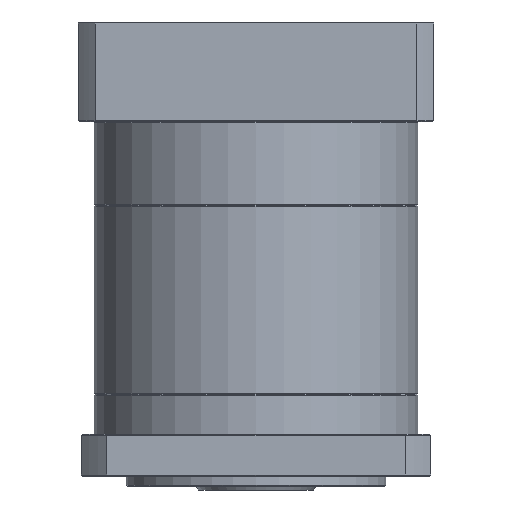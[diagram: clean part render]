
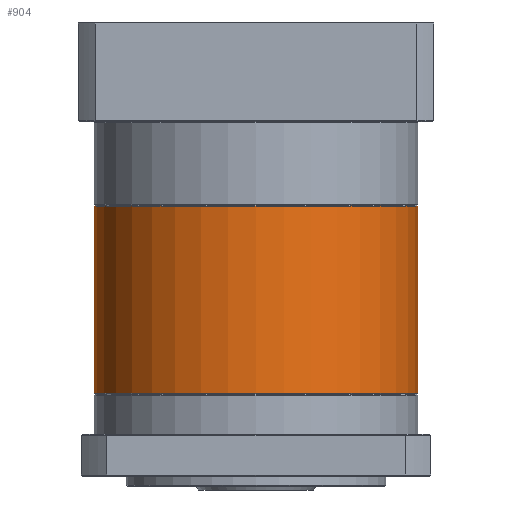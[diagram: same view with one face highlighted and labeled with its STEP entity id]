
A CAD part, front view. The second image highlights one B-rep face of the part: STEP entity #904.
In plain terms, the highlighted cylindrical face has radius 81 mm (diameter 162 mm), a partial arc.
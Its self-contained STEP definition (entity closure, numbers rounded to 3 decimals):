
#359 = ORIENTED_EDGE ( 'NONE', *, *, #27709, .F. ) ;
#904 = ADVANCED_FACE ( 'NONE', ( #15937 ), #119595, .T. ) ;
#2267 = LINE ( 'NONE', #34093, #81343 ) ;
#7354 = CARTESIAN_POINT ( 'NONE',  ( -70.688, 108.636, -76.049 ) ) ;
#10308 = CARTESIAN_POINT ( 'NONE',  ( -151.688, 108.636, -76.049 ) ) ;
#15937 = FACE_OUTER_BOUND ( 'NONE', #112162, .T. ) ;
#19520 = CIRCLE ( 'NONE', #71247, 81. ) ;
#24962 = DIRECTION ( 'NONE',  ( 0., 0., -1. ) ) ;
#27086 = CARTESIAN_POINT ( 'NONE',  ( -70.688, 108.636, -169.549 ) ) ;
#27709 = EDGE_CURVE ( 'NONE', #105314, #42545, #2267, .T. ) ;
#34093 = CARTESIAN_POINT ( 'NONE',  ( 10.312, 108.636, -75.549 ) ) ;
#38788 = DIRECTION ( 'NONE',  ( 0., 0., -1. ) ) ;
#42545 = VERTEX_POINT ( 'NONE', #105708 ) ;
#56021 = DIRECTION ( 'NONE',  ( -1., 0., 0. ) ) ;
#57965 = DIRECTION ( 'NONE',  ( -1., 0., 0. ) ) ;
#63973 = DIRECTION ( 'NONE',  ( 0., 0., -1. ) ) ;
#68794 = EDGE_CURVE ( 'NONE', #125067, #88120, #71926, .T. ) ;
#71247 = AXIS2_PLACEMENT_3D ( 'NONE', #7354, #117313, #57965 ) ;
#71926 = LINE ( 'NONE', #84351, #124597 ) ;
#79437 = DIRECTION ( 'NONE',  ( -1., 0., 0. ) ) ;
#81343 = VECTOR ( 'NONE', #63973, 1000. ) ;
#84351 = CARTESIAN_POINT ( 'NONE',  ( -151.688, 108.636, -75.549 ) ) ;
#85171 = DIRECTION ( 'NONE',  ( 0., 0., 1. ) ) ;
#85536 = EDGE_CURVE ( 'NONE', #88120, #42545, #121372, .T. ) ;
#86046 = ORIENTED_EDGE ( 'NONE', *, *, #68794, .T. ) ;
#88120 = VERTEX_POINT ( 'NONE', #116356 ) ;
#103515 = AXIS2_PLACEMENT_3D ( 'NONE', #116676, #38788, #79437 ) ;
#103810 = ORIENTED_EDGE ( 'NONE', *, *, #104844, .T. ) ;
#104844 = EDGE_CURVE ( 'NONE', #105314, #125067, #19520, .T. ) ;
#105314 = VERTEX_POINT ( 'NONE', #114994 ) ;
#105708 = CARTESIAN_POINT ( 'NONE',  ( 10.312, 108.636, -169.549 ) ) ;
#109120 = ORIENTED_EDGE ( 'NONE', *, *, #85536, .T. ) ;
#112162 = EDGE_LOOP ( 'NONE', ( #359, #103810, #86046, #109120 ) ) ;
#114994 = CARTESIAN_POINT ( 'NONE',  ( 10.312, 108.636, -76.049 ) ) ;
#115676 = AXIS2_PLACEMENT_3D ( 'NONE', #27086, #85171, #56021 ) ;
#116356 = CARTESIAN_POINT ( 'NONE',  ( -151.688, 108.636, -169.549 ) ) ;
#116676 = CARTESIAN_POINT ( 'NONE',  ( -70.688, 108.636, -75.549 ) ) ;
#117313 = DIRECTION ( 'NONE',  ( 0., 0., -1. ) ) ;
#119595 = CYLINDRICAL_SURFACE ( 'NONE', #103515, 81. ) ;
#121372 = CIRCLE ( 'NONE', #115676, 81. ) ;
#124597 = VECTOR ( 'NONE', #24962, 1000. ) ;
#125067 = VERTEX_POINT ( 'NONE', #10308 ) ;
